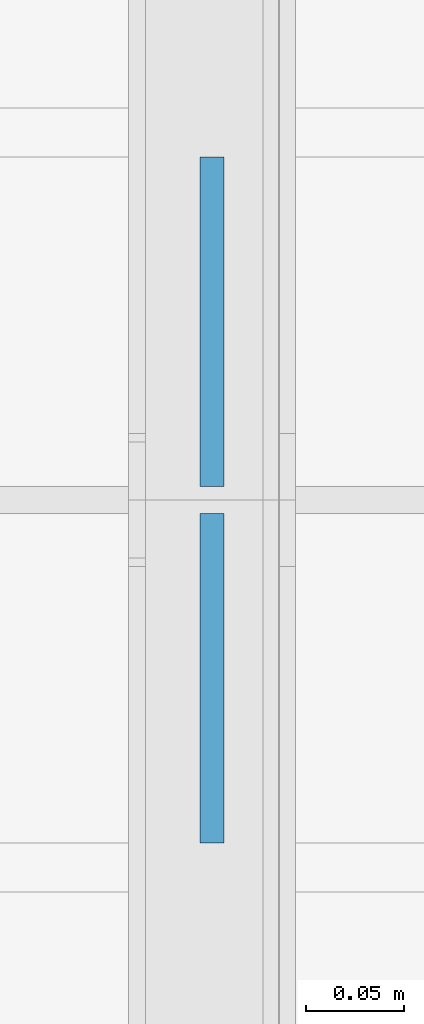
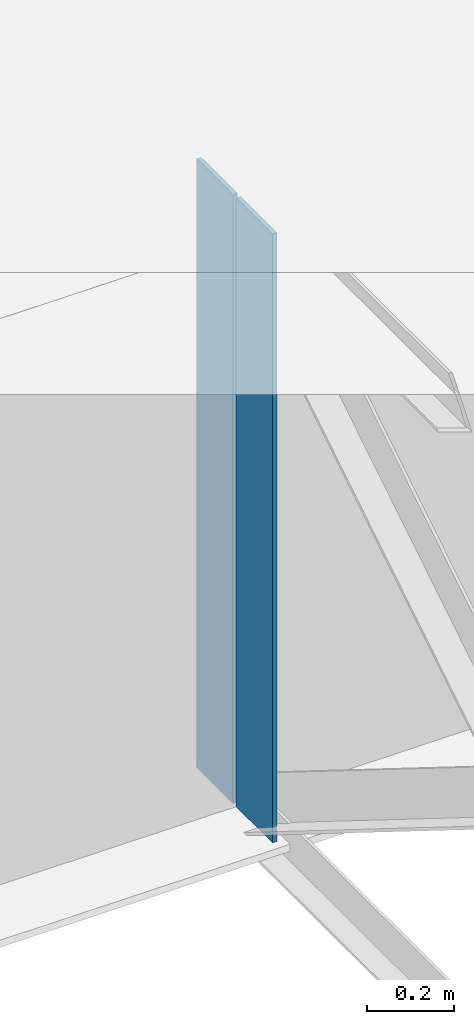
# One storey, part 13 of 17: 2 plates.
"""IFC4 building model written with IfcOpenShell, lengths in metres."""

import ifcopenshell
import ifcopenshell.guid

model = None  # the IFC model being written
_history = None  # IfcOwnerHistory: only IFC2X3 demands one
_inside = {}  # id of a spatial element -> (the spatial element, [elements in it])
_under = {}  # id of a project, library or spatial element -> (it, [spatial elements below it])
_declared = {}  # id of a project -> (the project, [libraries it declares])
_typed = {}  # id of a type object -> (the type object, [elements of that type])
_made_of = {}  # id of a material, layer set ... -> (it, [elements and type objects made of it])


def new_model(schema):
    """Start an empty IFC model of exactly this schema.

    Asked for "IFC4X3", IfcOpenShell would pick the latest addendum, in which some entities
    have other attributes; the version numbers below select the first issue.
    IFC2X3 requires an IfcOwnerHistory on every rooted entity: one is made here for all.
    """
    global model, _history
    if schema == "IFC4X3":
        model = ifcopenshell.file(schema_version=(4, 3, 0, 0))
    else:
        model = ifcopenshell.file(schema=schema)
    _inside.clear()
    _under.clear()
    _declared.clear()
    _typed.clear()
    _made_of.clear()
    _history = None
    if model.schema == "IFC2X3":
        org = make("IfcOrganization", Name="unknown")
        user = make(
            "IfcPersonAndOrganization",
            ThePerson=make("IfcPerson", FamilyName="unknown"),
            TheOrganization=org,
        )
        app = make(
            "IfcApplication",
            ApplicationDeveloper=org,
            Version="unknown",
            ApplicationFullName="unknown",
            ApplicationIdentifier="unknown",
        )
        _history = make(
            "IfcOwnerHistory",
            OwningUser=user,
            OwningApplication=app,
            ChangeAction="ADDED",
            CreationDate=0,
        )
    return model


def make(cls, **values):
    """One entity of the class cls with the attributes given. An attribute that is None is left unset."""
    return model.create_entity(
        cls, **{name: value for name, value in values.items() if value is not None}
    )


def rooted(cls, **values):
    """An entity with a GlobalId (a new one), such as an element, a storey or a relation."""
    return make(cls, GlobalId=ifcopenshell.guid.new(), OwnerHistory=_history, **values)


def si_unit(unit_type, name, prefix=None):
    """IfcSIUnit, for example si_unit("LENGTHUNIT", "METRE", prefix="MILLI")."""
    return make("IfcSIUnit", UnitType=unit_type, Prefix=prefix, Name=name)


def assignment(units):
    """IfcUnitAssignment: the units of a project."""
    return None if units is None else make("IfcUnitAssignment", Units=units)


def point(xyz):
    """IfcCartesianPoint."""
    return None if xyz is None else make("IfcCartesianPoint", Coordinates=xyz)


def direction(xyz):
    """IfcDirection."""
    return None if xyz is None else make("IfcDirection", DirectionRatios=xyz)


def frame(location, z_axis=None, x_axis=None):
    """IfcAxis2Placement3D, a coordinate frame: its origin and axes. An axis left out is left unset."""
    return make(
        "IfcAxis2Placement3D",
        Location=point(location),
        Axis=direction(z_axis),
        RefDirection=direction(x_axis),
    )


def frame_2d(location, x_axis=None):
    """IfcAxis2Placement2D, a coordinate frame in the plane: its origin and x axis."""
    return make(
        "IfcAxis2Placement2D", Location=point(location), RefDirection=direction(x_axis)
    )


def origin():
    """The frame at (0, 0, 0) with its axes left unset."""
    return frame((0.0, 0.0, 0.0))


def origin_with_axes():
    """The frame at (0, 0, 0) with the z axis (0, 0, 1) and the x axis (1, 0, 0) written out."""
    return frame((0.0, 0.0, 0.0), z_axis=(0.0, 0.0, 1.0), x_axis=(1.0, 0.0, 0.0))


def origin_2d_with_axis():
    """The frame at (0, 0) in the plane with the x axis (1, 0) written out."""
    return frame_2d((0.0, 0.0), x_axis=(1.0, 0.0))


def place(relative_to, where):
    """IfcLocalPlacement: puts the frame where relative to a parent placement (None: the world)."""
    return make(
        "IfcLocalPlacement", PlacementRelTo=relative_to, RelativePlacement=where
    )


def context(
    kind, dimensions, precision=None, world=None, true_north=None, identifier=None
):
    """IfcGeometricRepresentationContext, for example the 3D "Model" context."""
    return make(
        "IfcGeometricRepresentationContext",
        ContextIdentifier=identifier,
        ContextType=kind,
        CoordinateSpaceDimension=dimensions,
        Precision=precision,
        WorldCoordinateSystem=world,
        TrueNorth=true_north,
    )


def subcontext(parent, identifier, kind, view, scale=None):
    """IfcGeometricRepresentationSubContext, for example "Body" below "Model"."""
    return make(
        "IfcGeometricRepresentationSubContext",
        ContextIdentifier=identifier,
        ContextType=kind,
        ParentContext=parent,
        TargetScale=scale,
        TargetView=view,
    )


def project(units=None, contexts=None):
    """IfcProject with its units and contexts."""
    return rooted(
        "IfcProject",
        Name="project",
        RepresentationContexts=contexts,
        UnitsInContext=assignment(units),
    )


def spatial(cls, under=None, at=None, **own):
    """A site, building, storey or space (cls), placed at a placement, below another one or the project."""
    s = rooted(cls, ObjectPlacement=at, **own)
    if under is not None:
        _under.setdefault(under.id(), (under, []))[1].append(s)
    return s


def profile(cls, at=None, kind="AREA", **sizes):
    """A parametric profile (cls). Its sizes go by their IFC names, for example OverallWidth=200.0."""
    return make(cls, ProfileType=kind, Position=at, **sizes)


def rectangle(**sizes):
    """IfcRectangleProfileDef."""
    return profile("IfcRectangleProfileDef", **sizes)


def extrude(swept, where, along, depth):
    """IfcExtrudedAreaSolid: the profile swept, set in the frame where, extruded along a direction by depth."""
    return make(
        "IfcExtrudedAreaSolid",
        SweptArea=swept,
        Position=where,
        ExtrudedDirection=direction(along),
        Depth=depth,
    )


def shape(context_of_items, identifier, shape_type, items):
    """IfcShapeRepresentation: the items that make up one representation, for example the "Body"."""
    return make(
        "IfcShapeRepresentation",
        ContextOfItems=context_of_items,
        RepresentationIdentifier=identifier,
        RepresentationType=shape_type,
        Items=items,
    )


def made_of(thing, what):
    """Note that an element or type object is made of a material, layer set ...; save() writes the relation."""
    if what is not None:
        _made_of.setdefault(what.id(), (what, []))[1].append(thing)
    return thing


def element(
    cls,
    number,
    at=None,
    inside=None,
    cuts=None,
    type_object=None,
    material=None,
    context=None,
    identifier="Body",
    shape_type=None,
    held_by="IfcProductDefinitionShape",
    body=None,
    shapes=None,
    **own,
):
    """One element of the class cls, such as IfcWall. Its Tag is "e" and its number.

    at: its placement. inside: the storey or other place that contains it. cuts: it is an
    opening in that element (IfcRelVoidsElement). A single representation is given by context,
    identifier, shape_type and body (its items); several are given by shapes. held_by: the class
    of the entity that holds the representations. save() writes the other relations.
    """
    e = rooted(cls, Tag="e%d" % number, ObjectPlacement=at, **own)
    if body is not None:
        shapes = [shape(context, identifier, shape_type, body)]
    if shapes is not None:
        e.Representation = make(held_by, Representations=shapes)
    if inside is not None:
        _inside.setdefault(inside.id(), (inside, []))[1].append(e)
    if cuts is not None:
        rooted(
            "IfcRelVoidsElement", RelatingBuildingElement=cuts, RelatedOpeningElement=e
        )
    if type_object is not None:
        _typed.setdefault(type_object.id(), (type_object, []))[1].append(e)
    return made_of(e, material)


def aggregate(whole, parts):
    """IfcRelAggregates: a whole, such as a stair, and the parts it consists of."""
    return rooted("IfcRelAggregates", RelatingObject=whole, RelatedObjects=parts)


def save(model, path):
    """Write the relations noted so far, then the file.

    IfcRelAggregates (storeys below a building ...), IfcRelContainedInSpatialStructure (elements
    in a storey), IfcRelDefinesByType, IfcRelAssociatesMaterial and IfcRelDeclares: one each for
    every whole, place, type object, material and project.
    """
    for whole, parts in _under.values():
        aggregate(whole, parts)
    for where, things in _inside.values():
        rooted(
            "IfcRelContainedInSpatialStructure",
            RelatedElements=things,
            RelatingStructure=where,
        )
    for kind, things in _typed.values():
        rooted("IfcRelDefinesByType", RelatedObjects=things, RelatingType=kind)
    for what, things in _made_of.values():
        rooted("IfcRelAssociatesMaterial", RelatedObjects=things, RelatingMaterial=what)
    for by, libraries in _declared.values():
        rooted("IfcRelDeclares", RelatingContext=by, RelatedDefinitions=libraries)
    model.write(path)


model = new_model("IFC4")

# Units and contexts
model_context = context("Model", 3, precision=1e-05, world=origin())
body_context = subcontext(model_context, "Body", "Model", "MODEL_VIEW")
ifc_project = project(units=[si_unit("LENGTHUNIT", "METRE"), si_unit("AREAUNIT", "SQUARE_METRE"), si_unit("VOLUMEUNIT", "CUBIC_METRE"), si_unit("PLANEANGLEUNIT", "RADIAN")], contexts=[model_context])

# Site, building, storey
site_placement = place(None, origin_with_axes())
site = spatial("IfcSite", under=ifc_project, at=site_placement, Name="Default Site")
building_placement = place(site_placement, origin_with_axes())
building = spatial("IfcBuilding", under=site, at=building_placement, Name="Bridge Structure")
storey_placement = place(building_placement, origin_with_axes())
storey = spatial("IfcBuildingStorey", under=building, at=storey_placement, Name="Superstructure")

# Plates
for number, where, z_axis, x_axis, name in (
    (1, (15.0, 2.841, -0.857), (0.0, 0.0, 1.0), (1.0, 0.0, 0.0), "Intermediate Stiffener 4"),
    (2, (15.0, 2.6590000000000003, -0.857), (0.0, 0.0, 1.0), (1.0, 0.0, 0.0), "Intermediate Stiffener 4"),
):
    element("IfcPlate", number, at=place(storey_placement, frame(where, z_axis=z_axis, x_axis=x_axis)), inside=storey, Name=name, context=body_context, shape_type="SweptSolid", body=[
        extrude(rectangle(XDim=0.012, YDim=0.168, at=origin_2d_with_axis()), origin_with_axes(), (0.0, 0.0, 1.0), 1.714),
    ])

save(model, "model.ifc")
